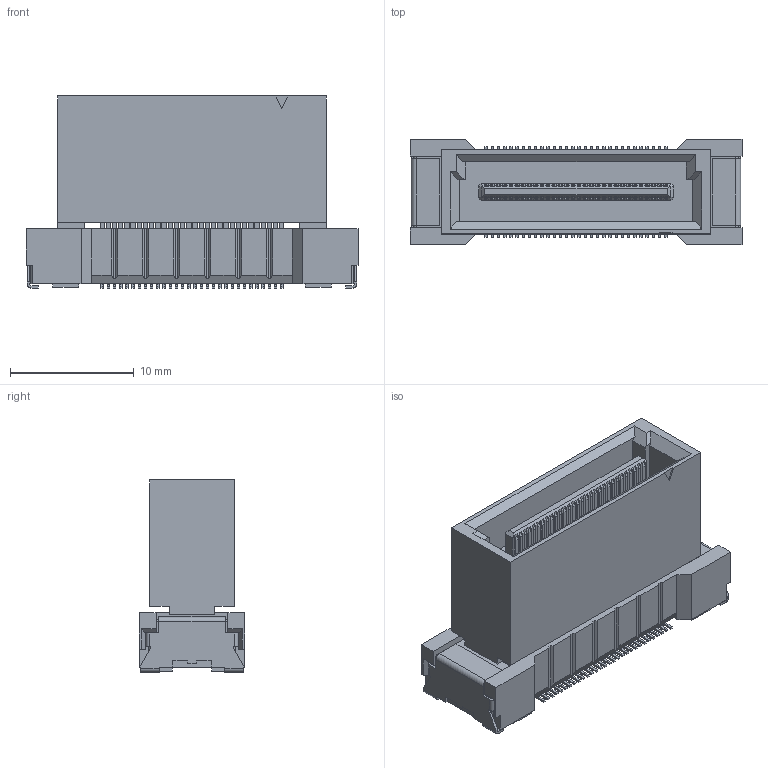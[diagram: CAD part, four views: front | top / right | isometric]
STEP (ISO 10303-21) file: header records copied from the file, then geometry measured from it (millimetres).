
FILE_DESCRIPTION(('Creo Elements/Direct Modeling STEP Export'),'2;1');
FILE_NAME('P3E104_DT00-060FS-10-T.stp','2022-02-25T17:39:32',(''),(''),'Creo Elements/Direct Modeling STEP processor for AP214 (Solid Model)','Creo Elements/Direct Modeling 20.4A 18-Oct-2021 (C) Parametric Technology GmbH','');
FILE_SCHEMA(('AUTOMOTIVE_DESIGN { 1 0 10303 214 1 1 1 1 }'));
Length unit declared in the file: millimetre
Products named in the file (2): P3E104_DT00-060FS-10-T
Assembly tree (1 placements, depth 2):
  P3E104_DT00-060FS-10-T
    P3E104_DT00-060FS-10-T
Bounding box: 26.8 x 8.5 x 15.5 mm (x, y, z)
Volume: 2073.3 mm3; surface area: 2057.6 mm2
Topology: 1 solids, 1 shells, 1801 faces, 5061 edges, 3322 vertices
Faces by surface type: plane 1655, cylinder 146
Entity records: 56122 total; most frequent: ORIENTED_EDGE 10122, CARTESIAN_POINT 9932, DIRECTION 8639, EDGE_CURVE 5061, VECTOR 4581, LINE 4581, VERTEX_POINT 3322, AXIS2_PLACEMENT_3D 2029
